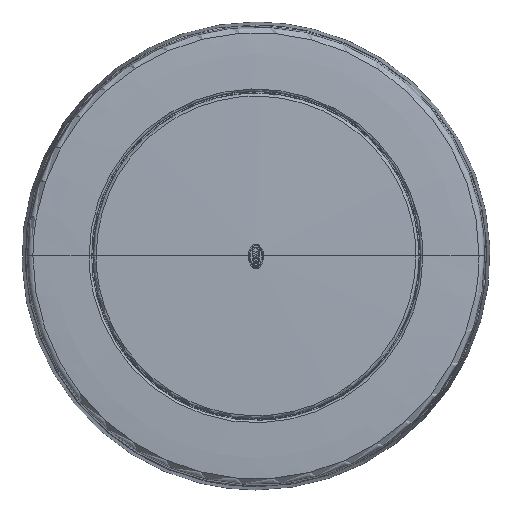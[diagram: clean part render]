
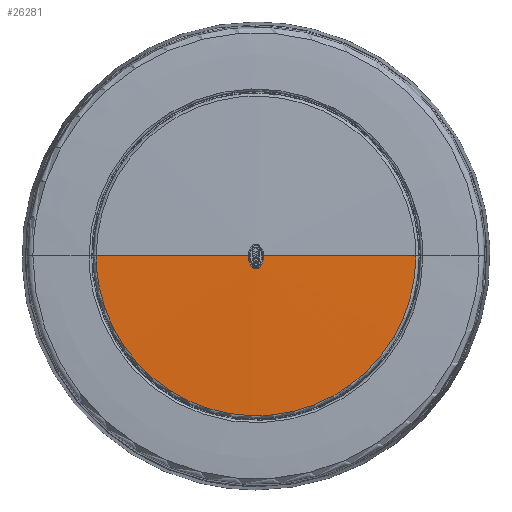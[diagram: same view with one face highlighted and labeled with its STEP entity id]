
A CAD part, top view. The second image highlights one B-rep face of the part: STEP entity #26281.
In plain terms, the highlighted spherical face has radius 1434.43 mm.
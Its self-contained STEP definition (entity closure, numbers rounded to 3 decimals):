
#113=VERTEX_POINT('',#112) ;
#132=VERTEX_POINT('',#131) ;
#325=VERTEX_POINT('',#324) ;
#356=VERTEX_POINT('',#355) ;
#26271=DIRECTION('Axis2P3D Direction',(0.,0.,-1.)) ;
#26272=DIRECTION('Axis2P3D XDirection',(1.,0.,0.)) ;
#112=CARTESIAN_POINT('Vertex',(52.638,0.,20.034)) ;
#116=CARTESIAN_POINT('Control Point',(52.638,0.,20.034)) ;
#117=CARTESIAN_POINT('Control Point',(52.638,-8.268,20.034)) ;
#118=CARTESIAN_POINT('Control Point',(51.015,-16.537,20.034)) ;
#119=CARTESIAN_POINT('Control Point',(47.766,-24.38,20.034)) ;
#120=CARTESIAN_POINT('Control Point',(38.369,-38.369,20.034)) ;
#121=CARTESIAN_POINT('Control Point',(24.38,-47.766,20.034)) ;
#122=CARTESIAN_POINT('Control Point',(16.537,-51.015,20.034)) ;
#123=CARTESIAN_POINT('Control Point',(0.,-54.262,20.034)) ;
#124=CARTESIAN_POINT('Control Point',(-16.537,-51.015,20.034)) ;
#125=CARTESIAN_POINT('Control Point',(-24.38,-47.766,20.034)) ;
#126=CARTESIAN_POINT('Control Point',(-38.369,-38.369,20.034)) ;
#127=CARTESIAN_POINT('Control Point',(-47.766,-24.38,20.034)) ;
#128=CARTESIAN_POINT('Control Point',(-51.015,-16.537,20.034)) ;
#129=CARTESIAN_POINT('Control Point',(-52.638,-8.268,20.034)) ;
#130=CARTESIAN_POINT('Control Point',(-52.638,0.,20.034)) ;
#131=CARTESIAN_POINT('Vertex',(-52.638,0.,20.034)) ;
#324=CARTESIAN_POINT('Vertex',(2.497,0.,20.998)) ;
#328=CARTESIAN_POINT('Control Point',(2.497,0.,20.998)) ;
#329=CARTESIAN_POINT('Control Point',(19.214,0.,20.969)) ;
#330=CARTESIAN_POINT('Control Point',(35.932,0.,20.647)) ;
#331=CARTESIAN_POINT('Control Point',(52.638,0.,20.034)) ;
#351=CARTESIAN_POINT('Control Point',(-52.638,0.,20.034)) ;
#352=CARTESIAN_POINT('Control Point',(-35.932,0.,20.647)) ;
#353=CARTESIAN_POINT('Control Point',(-19.214,0.,20.969)) ;
#354=CARTESIAN_POINT('Control Point',(-2.496,0.,20.998)) ;
#355=CARTESIAN_POINT('Vertex',(-2.496,0.,20.998)) ;
#2166=CARTESIAN_POINT('Control Point',(-2.496,0.,20.998)) ;
#2167=CARTESIAN_POINT('Control Point',(-2.509,-0.624,20.998)) ;
#2168=CARTESIAN_POINT('Control Point',(-2.447,-1.25,20.998)) ;
#2169=CARTESIAN_POINT('Control Point',(-2.304,-1.848,20.997)) ;
#2170=CARTESIAN_POINT('Control Point',(-1.874,-2.957,20.996)) ;
#2171=CARTESIAN_POINT('Control Point',(-1.209,-3.719,20.995)) ;
#2172=CARTESIAN_POINT('Control Point',(-0.82,-3.982,20.994)) ;
#2173=CARTESIAN_POINT('Control Point',(-0.036,-4.248,20.994)) ;
#2174=CARTESIAN_POINT('Control Point',(0.748,-4.006,20.994)) ;
#2175=CARTESIAN_POINT('Control Point',(1.105,-3.786,20.995)) ;
#2176=CARTESIAN_POINT('Control Point',(1.794,-3.09,20.996)) ;
#2177=CARTESIAN_POINT('Control Point',(2.262,-2.015,20.997)) ;
#2178=CARTESIAN_POINT('Control Point',(2.434,-1.368,20.998)) ;
#2179=CARTESIAN_POINT('Control Point',(2.51,-0.682,20.998)) ;
#2180=CARTESIAN_POINT('Control Point',(2.496,0.,20.998)) ;
#26270=CARTESIAN_POINT('Axis2P3D Location',(0.,0.,-1413.43)) ;
#26273=AXIS2_PLACEMENT_3D('Sphere Axis2P3D',#26270,#26271,#26272) ;
#26274=SPHERICAL_SURFACE('',#26273,1434.43) ;
#133=EDGE_CURVE('',#113,#132,#115,.T.) ;
#332=EDGE_CURVE('',#325,#113,#327,.T.) ;
#357=EDGE_CURVE('',#132,#356,#350,.T.) ;
#2181=EDGE_CURVE('',#356,#325,#2165,.T.) ;
#26276=ORIENTED_EDGE('',*,*,#2181,.F.) ;
#26277=ORIENTED_EDGE('',*,*,#357,.F.) ;
#26278=ORIENTED_EDGE('',*,*,#133,.F.) ;
#26279=ORIENTED_EDGE('',*,*,#332,.F.) ;
#26275=EDGE_LOOP('',(#26276,#26277,#26278,#26279)) ;
#26281=ADVANCED_FACE('980.631-6x',(#26280),#26274,.T.) ;
#115=B_SPLINE_CURVE_WITH_KNOTS('',5,(#116,#117,#118,#119,#120,#121,#122,#123,#124,#125,#126,#127,#128,#129,#130),.UNSPECIFIED.,.F.,.U.,(6,3,3,3,6),(0.,0.25,0.5,0.75,1.),.UNIFORM_KNOTS.) ;
#327=B_SPLINE_CURVE_WITH_KNOTS('',3,(#328,#329,#330,#331),.UNSPECIFIED.,.F.,.U.,(4,4),(0.,1.),.UNIFORM_KNOTS.) ;
#350=B_SPLINE_CURVE_WITH_KNOTS('',3,(#351,#352,#353,#354),.UNSPECIFIED.,.F.,.U.,(4,4),(0.,1.),.UNIFORM_KNOTS.) ;
#2165=B_SPLINE_CURVE_WITH_KNOTS('',5,(#2166,#2167,#2168,#2169,#2170,#2171,#2172,#2173,#2174,#2175,#2176,#2177,#2178,#2179,#2180),.UNSPECIFIED.,.F.,.U.,(6,3,3,3,6),(0.,0.243,0.5,0.734,1.),.UNIFORM_KNOTS.) ;
#26280=FACE_OUTER_BOUND('',#26275,.T.) ;
